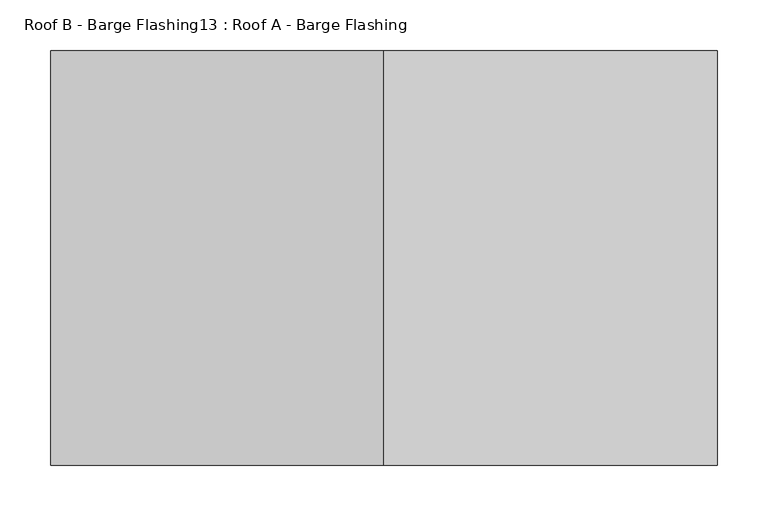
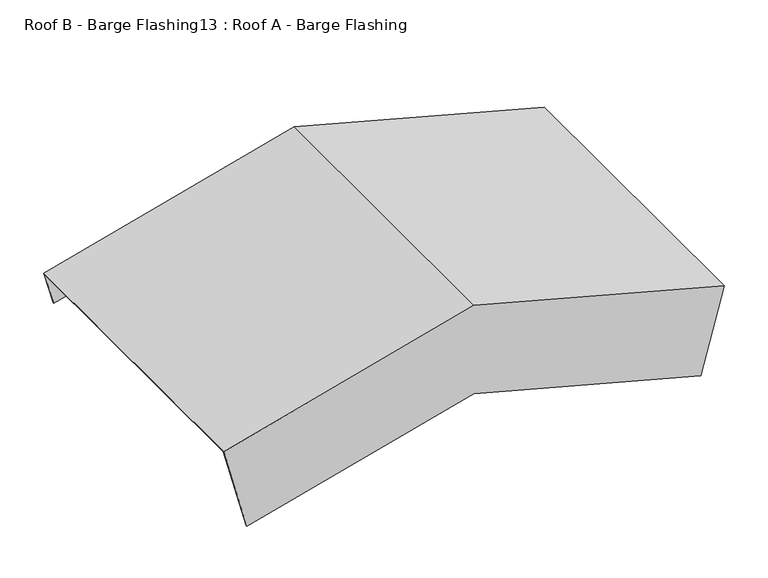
"""IFC4 building model written with IfcOpenShell, lengths in millimetres: proxy geometry, Roof B - Barge Flashing13 : Roof A - Barge Flashing."""

from ifc_helpers import new_model, si_unit, origin, place, context, project, spatial, faceted_brep, source, transform, mapped, element, save


def roof_b_barge_flashing13_roof_a_barge_flashing_57eb997f(model_context):
    return source(origin(), model_context, "Body", "Brep", [
        faceted_brep([(-26822.5403202, -33891.102608, 4154.0728273), (-26834.5754058, -33891.102608, 4109.1572764), (-26834.5754058, -33890.102608, 4109.1572764), (-26822.2815012, -33890.102608, 4155.0387531), (-26822.2815012, -34300.2372219, 4155.0387531), (-26853.0162628, -34300.2372219, 4040.3350613), (-26853.0162628, -34299.2372219, 4040.3350613), (-26822.5403202, -34299.2372219, 4154.0728273), (-27151.9929037, -33891.102608, 4242.349381), (-27481.4454871, -33891.102608, 4154.0728273), (-27469.4104015, -33891.102608, 4109.1572764), (-27151.9929037, -33891.102608, 4194.2090386), (-27151.9929037, -33890.102608, 4194.2090386), (-27469.4104015, -33890.102608, 4109.1572764), (-27481.7043062, -33890.102608, 4155.0387531), (-27151.9929037, -33890.102608, 4243.3846572), (-27151.9929037, -34300.2372219, 4243.3846572), (-27481.7043062, -34300.2372219, 4155.0387531), (-27450.9695446, -34300.2372219, 4040.3350613), (-27151.9929037, -34300.2372219, 4120.4456108), (-27151.9929037, -34299.2372219, 4120.4456108), (-27450.9695446, -34299.2372219, 4040.3350613), (-27481.4454871, -34299.2372219, 4154.0728273), (-27151.9929037, -34299.2372219, 4242.349381)], [[[0, 1, 2, 3, 4, 5, 6, 7]], [[1, 0, 8, 9, 10, 11]], [[2, 1, 11, 12]], [[3, 2, 12, 13, 14, 15]], [[4, 3, 15, 16]], [[5, 4, 16, 17, 18, 19]], [[7, 6, 20, 21, 22, 23]], [[0, 7, 23, 8]], [[9, 22, 21, 18, 17, 14, 13, 10]], [[12, 11, 10, 13]], [[16, 15, 14, 17]], [[8, 23, 22, 9]], [[6, 5, 19, 20]], [[20, 19, 18, 21]]]),
    ])


if __name__ == "__main__":
    model = new_model("IFC4")
    model_context = context("Model", 3, world=origin())
    ifc_project = project(units=[si_unit("LENGTHUNIT", "METRE", prefix="MILLI")], contexts=[model_context])
    site = spatial("IfcSite", under=ifc_project)
    building = spatial("IfcBuilding", under=site)
    placement = place(None, origin())
    roof_b_barge_flashing13_roof_a_barge_flashing_shape = roof_b_barge_flashing13_roof_a_barge_flashing_57eb997f(model_context)
    element("IfcBuildingElementProxy", 1, Name="Roof B - Barge Flashing13 : Roof A - Barge Flashing", ObjectType="Roof B - Barge Flashing13 : Roof A - Barge Flashing", at=placement, inside=building, context=model_context, shape_type="MappedRepresentation", body=[
        mapped(roof_b_barge_flashing13_roof_a_barge_flashing_shape, transform((0.0, 0.0, 0.0), x_axis=(1.0, 0.0, 0.0), y_axis=(0.0, 1.0, 0.0), z_axis=(0.0, 0.0, 1.0))),
    ])
    save(model, "model.ifc")
